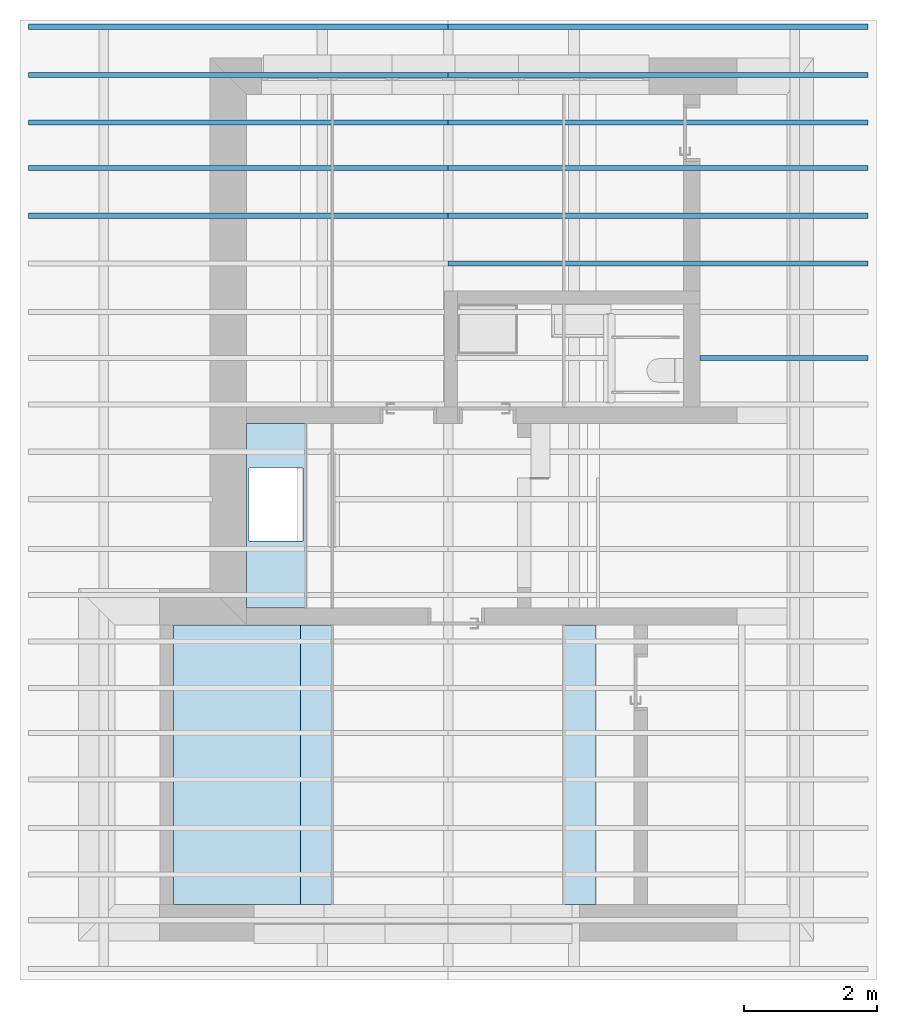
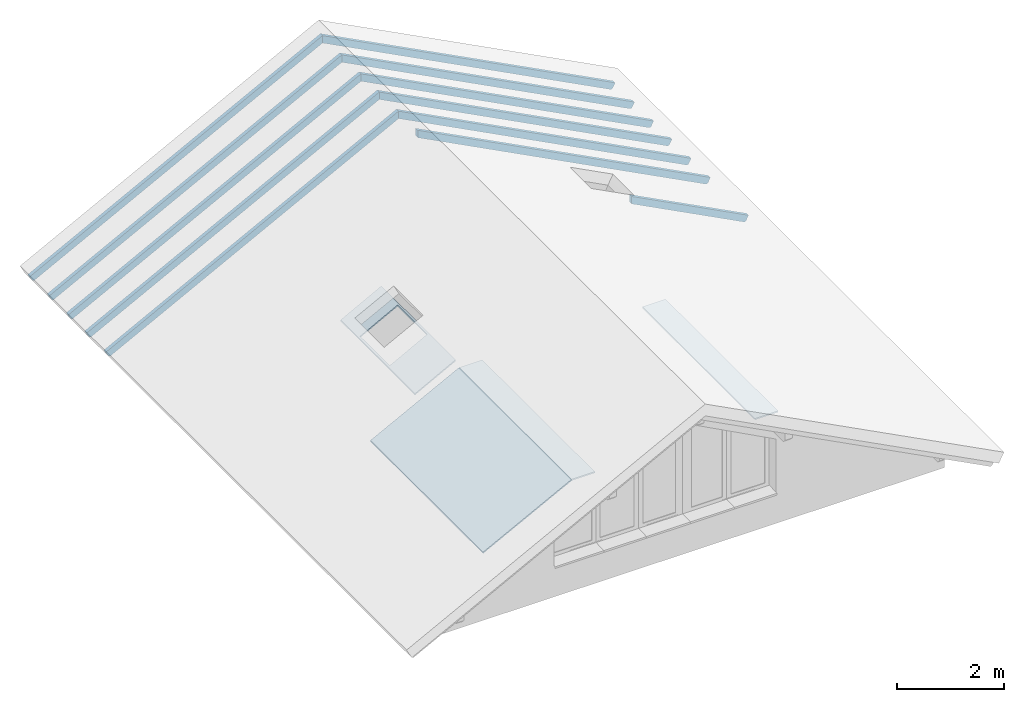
# One storey, part 2 of 18: 12 beams, 4 slabs, 1 opening.
"""IFC2X3 building model written with IfcOpenShell, lengths in metres."""

from ifc_helpers import new_model, entity, si_unit, converted_unit, derived_unit, direction, frame, frame_2d, origin, place, context, subcontext, project, spatial, polyline, rectangle, outline, extrude, clip, halfspace, faceted_brep, material, layer, layer_set, layer_usage, type_object, element, save


model = new_model("IFC2X3")

# Units and contexts
model_context = context("Model", 3, precision=1e-05, world=origin(), true_north=direction((6.123233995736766e-17, 1.0)))
body_context = subcontext(model_context, "Body", "Model", "MODEL_VIEW")
ifc_project = project(units=[si_unit("LENGTHUNIT", "METRE"), si_unit("AREAUNIT", "SQUARE_METRE"), si_unit("VOLUMEUNIT", "CUBIC_METRE"), si_unit("POWERUNIT", "WATT"), derived_unit("USERDEFINED", [(si_unit("MASSUNIT", "GRAM", prefix="KILO"), 1), (si_unit("TIMEUNIT", "SECOND"), -3)]), derived_unit("THERMALRESISTANCEUNIT", [(si_unit("MASSUNIT", "GRAM", prefix="KILO"), -1), (si_unit("TIMEUNIT", "SECOND"), 3), (si_unit("THERMODYNAMICTEMPERATUREUNIT", "KELVIN"), 1)]), derived_unit("USERDEFINED", [(si_unit("MASSUNIT", "GRAM", prefix="KILO"), 1), (si_unit("TIMEUNIT", "SECOND"), -2), (si_unit("THERMODYNAMICTEMPERATUREUNIT", "KELVIN"), -1)]), derived_unit("THERMALTRANSMITTANCEUNIT", [(si_unit("MASSUNIT", "GRAM", prefix="KILO"), 1), (si_unit("TIMEUNIT", "SECOND"), -3), (si_unit("THERMODYNAMICTEMPERATUREUNIT", "KELVIN"), -1)]), converted_unit("PLANEANGLEUNIT", "DEGREE", entity("IfcPlaneAngleMeasure", 0.017453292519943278), si_unit("PLANEANGLEUNIT", "RADIAN"), dimensions=[0, 0, 0, 0, 0, 0, 0]), derived_unit("MOMENTOFINERTIAUNIT", [(si_unit("LENGTHUNIT", "METRE"), 4)])], contexts=[model_context])

# Site, building, storey
site_placement = place(None, origin())
site = spatial("IfcSite", under=ifc_project, at=site_placement, Name="Default", CompositionType="ELEMENT")
building_placement = place(site_placement, origin())
building = spatial("IfcBuilding", under=site, at=building_placement, CompositionType="ELEMENT")
storey_placement = place(building_placement, frame((0.0, 0.0, 5.4)))
storey = spatial("IfcBuildingStorey", under=building, at=storey_placement, Name="1. Obergeschoss", CompositionType="ELEMENT", Elevation=5.4)

# Beams
ifc_material_1 = material(Name="Holz - Astfichte")
beam_type = type_object("IfcBeamType", Name="Skelettbau Holz - Sparren mit Zierkopf:80 x 150", PredefinedType="BEAM")
beam_1_placement = place(storey_placement, frame((26.802577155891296, 26.174470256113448, 0.054540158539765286), z_axis=(-0.4617486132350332, 0.0, 0.887010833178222), x_axis=(0.887010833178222, 0.0, 0.4617486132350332)))
element("IfcBeam", 1, at=beam_1_placement, inside=storey, type_object=beam_type, material=ifc_material_1, Name="Skelettbau Holz - Sparren mit Zierkopf:80 x 150", ObjectType="Skelettbau Holz - Sparren mit Zierkopf:80 x 150", context=body_context, shape_type="Brep", body=[
    faceted_brep([(7.180713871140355, 0.0, 0.10702535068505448), (7.180713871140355, 0.08000000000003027, 0.10702535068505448), (0.055713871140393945, 0.08000000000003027, 0.10702535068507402), (0.05571387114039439, 0.0, 0.10702535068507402), (0.09571387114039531, 0.0, -0.04297464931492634), (0.09571387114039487, 0.08000000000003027, -0.04297464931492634), (0.2057138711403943, 0.08000000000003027, -0.04297464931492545), (7.102628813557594, 0.08000000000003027, -0.04297464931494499), (7.102628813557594, 0.0, -0.04297464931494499), (0.20571387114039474, 0.0, -0.04297464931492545), (0.05571387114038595, 0.08000000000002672, -0.0029746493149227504), (0.08536110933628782, 0.08000000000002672, -0.04161168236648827), (0.07571387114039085, 0.08000000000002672, -0.03761566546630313), (0.06742959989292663, 0.08000000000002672, -0.03125892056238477), (0.06107285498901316, 0.08000000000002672, -0.0229746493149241), (0.05707683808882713, 0.08000000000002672, -0.013327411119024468), (0.0557138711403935, 0.0, -0.002974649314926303), (0.05707683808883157, 0.0, -0.013327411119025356), (0.0610728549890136, 0.0, -0.0229746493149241), (0.06742959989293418, 0.0, -0.031258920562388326), (0.07571387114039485, 0.0, -0.037615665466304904), (0.08536110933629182, 0.0, -0.041611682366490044)], [[[0, 1, 2, 3]], [[4, 5, 6, 7, 8, 9]], [[10, 2, 1, 7, 6, 5, 11, 12, 13, 14, 15]], [[4, 9, 8, 0, 3, 16, 17, 18, 19, 20, 21]], [[16, 10, 15, 17]], [[17, 15, 14, 18]], [[18, 14, 13, 19]], [[20, 12, 11, 21]], [[21, 11, 5, 4]], [[20, 19, 13, 12]], [[3, 2, 10, 16]], [[0, 8, 7, 1]]]),
])
beam_2_placement = place(storey_placement, frame((26.80257715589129, 26.89447025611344, 0.0545401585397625), z_axis=(-0.4617486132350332, 0.0, 0.887010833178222), x_axis=(0.887010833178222, 0.0, 0.4617486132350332)))
element("IfcBeam", 2, at=beam_2_placement, inside=storey, type_object=beam_type, material=ifc_material_1, Name="Skelettbau Holz - Sparren mit Zierkopf:80 x 150", ObjectType="Skelettbau Holz - Sparren mit Zierkopf:80 x 150", context=body_context, shape_type="Brep", body=[
    faceted_brep([(7.180713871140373, 0.0, 0.10702535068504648), (7.180713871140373, 0.08000000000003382, 0.10702535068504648), (0.05571387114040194, 0.08000000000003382, 0.10702535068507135), (0.05571387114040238, 0.0, 0.10702535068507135), (0.0957138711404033, 0.0, -0.042974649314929), (0.09571387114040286, 0.08000000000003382, -0.042974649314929), (0.2057138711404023, 0.08000000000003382, -0.042974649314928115), (7.102628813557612, 0.08000000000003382, -0.04297464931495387), (7.102628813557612, 0.0, -0.04297464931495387), (0.20571387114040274, 0.0, -0.042974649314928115), (0.0557138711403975, 0.08000000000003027, -0.0029746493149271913), (0.08536110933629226, 0.08000000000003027, -0.04161168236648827), (0.07571387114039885, 0.08000000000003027, -0.03761566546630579), (0.06742959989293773, 0.08000000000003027, -0.031258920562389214), (0.06107285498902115, 0.08000000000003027, -0.022974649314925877), (0.05707683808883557, 0.08000000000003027, -0.013327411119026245), (0.055713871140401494, 0.0, -0.0029746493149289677), (0.05707683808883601, 0.0, -0.013327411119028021), (0.0610728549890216, 0.0, -0.022974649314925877), (0.06742959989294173, 0.0, -0.03125892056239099), (0.07571387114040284, 0.0, -0.03761566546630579), (0.08536110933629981, 0.0, -0.04161168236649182)], [[[0, 1, 2, 3]], [[4, 5, 6, 7, 8, 9]], [[10, 2, 1, 7, 6, 5, 11, 12, 13, 14, 15]], [[4, 9, 8, 0, 3, 16, 17, 18, 19, 20, 21]], [[16, 10, 15, 17]], [[17, 15, 14, 18]], [[18, 14, 13, 19]], [[20, 12, 11, 21]], [[21, 11, 5, 4]], [[20, 19, 13, 12]], [[3, 2, 10, 16]], [[0, 8, 7, 1]]]),
])
beam_3_placement = place(storey_placement, frame((26.80257715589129, 27.57947025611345, 0.054540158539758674), z_axis=(-0.4617486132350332, 0.0, 0.887010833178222), x_axis=(0.887010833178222, 0.0, 0.4617486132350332)))
element("IfcBeam", 3, at=beam_3_placement, inside=storey, type_object=beam_type, material=ifc_material_1, Name="Skelettbau Holz - Sparren mit Zierkopf:80 x 150", ObjectType="Skelettbau Holz - Sparren mit Zierkopf:80 x 150", context=body_context, shape_type="Brep", body=[
    faceted_brep([(7.180713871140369, 0.0, 0.10702535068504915), (7.180713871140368, 0.08000000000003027, 0.10702535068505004), (0.05571387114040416, 0.08000000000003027, 0.10702535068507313), (0.0557138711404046, 0.0, 0.10702535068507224), (0.09571387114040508, 0.0, -0.042974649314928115), (0.09571387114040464, 0.08000000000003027, -0.04297464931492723), (0.20571387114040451, 0.08000000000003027, -0.04297464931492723), (7.102628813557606, 0.08000000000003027, -0.04297464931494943), (7.102628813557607, 0.0, -0.04297464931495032), (0.20571387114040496, 0.0, -0.042974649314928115), (0.055713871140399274, 0.08000000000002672, -0.0029746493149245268), (0.08536110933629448, 0.08000000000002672, -0.0416116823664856), (0.07571387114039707, 0.08000000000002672, -0.03761566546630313), (0.0674295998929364, 0.08000000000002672, -0.031258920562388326), (0.061072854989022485, 0.08000000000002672, -0.02297464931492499), (0.0570768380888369, 0.08000000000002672, -0.013327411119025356), (0.05571387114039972, 0.0, -0.0029746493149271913), (0.0570768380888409, 0.0, -0.013327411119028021), (0.06107285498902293, 0.0, -0.022974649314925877), (0.0674295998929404, 0.0, -0.031258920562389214), (0.07571387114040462, 0.0, -0.03761566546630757), (0.08536110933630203, 0.0, -0.04161168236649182)], [[[0, 1, 2, 3]], [[4, 5, 6, 7, 8, 9]], [[10, 2, 1, 7, 6, 5, 11, 12, 13, 14, 15]], [[4, 9, 8, 0, 3, 16, 17, 18, 19, 20, 21]], [[16, 10, 15, 17]], [[17, 15, 14, 18]], [[18, 14, 13, 19]], [[20, 12, 11, 21]], [[21, 11, 5, 4]], [[20, 19, 13, 12]], [[3, 2, 10, 16]], [[0, 8, 7, 1]]]),
])
beam_4_placement = place(storey_placement, frame((26.80257715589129, 28.294470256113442, 0.05454015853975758), z_axis=(-0.4617486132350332, 0.0, 0.887010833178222), x_axis=(0.887010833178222, 0.0, 0.4617486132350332)))
element("IfcBeam", 4, at=beam_4_placement, inside=storey, type_object=beam_type, material=ifc_material_1, Name="Skelettbau Holz - Sparren mit Zierkopf:80 x 150", ObjectType="Skelettbau Holz - Sparren mit Zierkopf:80 x 150", context=body_context, shape_type="Brep", body=[
    faceted_brep([(7.1807138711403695, 0.0, 0.10702535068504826), (7.1807138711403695, 0.08000000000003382, 0.10702535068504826), (0.05571387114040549, 0.08000000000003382, 0.10702535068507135), (0.055713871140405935, 0.0, 0.10702535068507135), (0.09571387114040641, 0.0, -0.042974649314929), (0.09571387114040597, 0.08000000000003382, -0.042974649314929), (0.20571387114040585, 0.08000000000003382, -0.042974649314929), (7.102628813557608, 0.08000000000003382, -0.04297464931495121), (7.102628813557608, 0.0, -0.04297464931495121), (0.2057138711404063, 0.0, -0.042974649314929), (0.055713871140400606, 0.08000000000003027, -0.002974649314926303), (0.08536110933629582, 0.08000000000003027, -0.04161168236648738), (0.0757138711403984, 0.08000000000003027, -0.037615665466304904), (0.06742959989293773, 0.08000000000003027, -0.0312589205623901), (0.06107285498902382, 0.08000000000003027, -0.022974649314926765), (0.05707683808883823, 0.08000000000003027, -0.013327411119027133), (0.05571387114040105, 0.0, -0.0029746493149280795), (0.05707683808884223, 0.0, -0.013327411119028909), (0.06107285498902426, 0.0, -0.022974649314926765), (0.06742959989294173, 0.0, -0.0312589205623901), (0.07571387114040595, 0.0, -0.03761566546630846), (0.08536110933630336, 0.0, -0.04161168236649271)], [[[0, 1, 2, 3]], [[4, 5, 6, 7, 8, 9]], [[10, 2, 1, 7, 6, 5, 11, 12, 13, 14, 15]], [[4, 9, 8, 0, 3, 16, 17, 18, 19, 20, 21]], [[16, 10, 15, 17]], [[17, 15, 14, 18]], [[18, 14, 13, 19]], [[20, 12, 11, 21]], [[21, 11, 5, 4]], [[20, 19, 13, 12]], [[3, 2, 10, 16]], [[0, 8, 7, 1]]]),
])
beam_5_placement = place(storey_placement, frame((26.80257715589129, 29.01947025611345, 0.05454015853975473), z_axis=(-0.4617486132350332, 0.0, 0.887010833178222), x_axis=(0.887010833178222, 0.0, 0.4617486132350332)))
element("IfcBeam", 5, at=beam_5_placement, inside=storey, type_object=beam_type, material=ifc_material_1, Name="Skelettbau Holz - Sparren mit Zierkopf:80 x 150", ObjectType="Skelettbau Holz - Sparren mit Zierkopf:80 x 150", context=body_context, shape_type="Brep", body=[
    faceted_brep([(7.180713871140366, 0.0, 0.10702535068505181), (7.180713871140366, 0.08000000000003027, 0.10702535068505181), (0.05571387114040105, 0.08000000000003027, 0.10702535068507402), (0.055713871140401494, 0.0, 0.10702535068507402), (0.09571387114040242, 0.0, -0.04297464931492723), (0.09571387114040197, 0.08000000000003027, -0.04297464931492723), (0.2057138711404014, 0.08000000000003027, -0.04297464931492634), (7.102628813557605, 0.08000000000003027, -0.042974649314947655), (7.102628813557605, 0.0, -0.042974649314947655), (0.20571387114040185, 0.0, -0.04297464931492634), (0.055713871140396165, 0.08000000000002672, -0.0029746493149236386), (0.08536110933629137, 0.08000000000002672, -0.041611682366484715), (0.0757138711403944, 0.08000000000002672, -0.03761566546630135), (0.06742959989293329, 0.08000000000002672, -0.03125892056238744), (0.06107285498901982, 0.08000000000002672, -0.02297464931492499), (0.05707683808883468, 0.08000000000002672, -0.01332741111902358), (0.05571387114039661, 0.0, -0.002974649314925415), (0.05707683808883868, 0.0, -0.013327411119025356), (0.061072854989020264, 0.0, -0.02297464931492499), (0.06742959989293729, 0.0, -0.03125892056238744), (0.07571387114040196, 0.0, -0.037615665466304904), (0.08536110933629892, 0.0, -0.041611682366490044)], [[[0, 1, 2, 3]], [[4, 5, 6, 7, 8, 9]], [[10, 2, 1, 7, 6, 5, 11, 12, 13, 14, 15]], [[4, 9, 8, 0, 3, 16, 17, 18, 19, 20, 21]], [[16, 10, 15, 17]], [[17, 15, 14, 18]], [[18, 14, 13, 19]], [[20, 12, 11, 21]], [[21, 11, 5, 4]], [[20, 19, 13, 12]], [[3, 2, 10, 16]], [[0, 8, 7, 1]]]),
])
beam_6_placement = place(storey_placement, frame((33.1225293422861, 29.019470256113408, 3.465157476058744), z_axis=(0.46174861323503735, 0.0, 0.8870108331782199), x_axis=(-0.8870108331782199, 0.0, 0.46174861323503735)))
element("IfcBeam", 6, at=beam_6_placement, inside=storey, type_object=beam_type, material=ifc_material_1, Name="Skelettbau Holz - Sparren mit Zierkopf:80 x 150", ObjectType="Skelettbau Holz - Sparren mit Zierkopf:80 x 150", context=body_context, shape_type="Brep", body=[
    faceted_brep([(0.0, -0.08000000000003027, 0.0), (0.0, 0.0, 0.0), (-7.124999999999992, 0.0, 0.0), (-7.124999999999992, -0.08000000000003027, 0.0), (-7.084999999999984, -0.08000000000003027, -0.14999999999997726), (-7.084999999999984, 0.0, -0.14999999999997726), (-6.97499999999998, 0.0, -0.14999999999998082), (-0.07808505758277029, 0.0, -0.14999999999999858), (-0.0780850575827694, -0.08000000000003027, -0.14999999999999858), (-6.97499999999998, -0.08000000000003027, -0.14999999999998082), (-7.124999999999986, 0.0, -0.10999999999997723), (-7.095352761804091, 0.0, -0.1486370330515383), (-7.1049999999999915, 0.0, -0.14464101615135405), (-7.113284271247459, 0.0, -0.13828427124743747), (-7.11964101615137, 0.0, -0.1299999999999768), (-7.123637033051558, 0.0, -0.12035276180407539), (-7.124999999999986, -0.08000000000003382, -0.10999999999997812), (-7.123637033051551, -0.08000000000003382, -0.12035276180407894), (-7.11964101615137, -0.08000000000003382, -0.1299999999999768), (-7.113284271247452, -0.08000000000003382, -0.13828427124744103), (-7.1049999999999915, -0.08000000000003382, -0.14464101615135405), (-7.095352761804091, -0.08000000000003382, -0.1486370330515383)], [[[0, 1, 2, 3]], [[4, 5, 6, 7, 8, 9]], [[10, 2, 1, 7, 6, 5, 11, 12, 13, 14, 15]], [[4, 9, 8, 0, 3, 16, 17, 18, 19, 20, 21]], [[16, 10, 15, 17]], [[17, 15, 14, 18]], [[18, 14, 13, 19]], [[20, 12, 11, 21]], [[21, 11, 5, 4]], [[20, 19, 13, 12]], [[3, 2, 10, 16]], [[0, 8, 7, 1]]]),
])
beam_7_placement = place(storey_placement, frame((33.1225293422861, 28.294470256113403, 3.4651574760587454), z_axis=(0.46174861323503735, 0.0, 0.8870108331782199), x_axis=(-0.8870108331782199, 0.0, 0.46174861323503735)))
element("IfcBeam", 7, at=beam_7_placement, inside=storey, type_object=beam_type, material=ifc_material_1, Name="Skelettbau Holz - Sparren mit Zierkopf:80 x 150", ObjectType="Skelettbau Holz - Sparren mit Zierkopf:80 x 150", context=body_context, shape_type="Brep", body=[
    faceted_brep([(0.0, -0.08000000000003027, 0.0), (0.0, 0.0, 0.0), (-7.124999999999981, 0.0, 0.0), (-7.12499999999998, -0.08000000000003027, 0.0), (-7.0849999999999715, -0.08000000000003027, -0.14999999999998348), (-7.084999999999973, 0.0, -0.1499999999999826), (-6.9749999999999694, 0.0, -0.14999999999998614), (-0.07808505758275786, 0.0, -0.1500000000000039), (-0.07808505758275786, -0.08000000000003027, -0.1500000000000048), (-6.974999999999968, -0.08000000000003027, -0.14999999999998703), (-7.124999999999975, 0.0, -0.10999999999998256), (-7.09535276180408, 0.0, -0.14863703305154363), (-7.104999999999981, 0.0, -0.14464101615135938), (-7.113284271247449, 0.0, -0.1382842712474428), (-7.119641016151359, 0.0, -0.12999999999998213), (-7.123637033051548, 0.0, -0.12035276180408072), (-7.124999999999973, -0.08000000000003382, -0.10999999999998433), (-7.123637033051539, -0.08000000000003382, -0.12035276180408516), (-7.119641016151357, -0.08000000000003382, -0.12999999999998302), (-7.11328427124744, -0.08000000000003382, -0.13828427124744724), (-7.104999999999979, -0.08000000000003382, -0.14464101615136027), (-7.095352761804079, -0.08000000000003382, -0.14863703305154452)], [[[0, 1, 2, 3]], [[4, 5, 6, 7, 8, 9]], [[10, 2, 1, 7, 6, 5, 11, 12, 13, 14, 15]], [[4, 9, 8, 0, 3, 16, 17, 18, 19, 20, 21]], [[16, 10, 15, 17]], [[17, 15, 14, 18]], [[18, 14, 13, 19]], [[20, 12, 11, 21]], [[21, 11, 5, 4]], [[20, 19, 13, 12]], [[3, 2, 10, 16]], [[0, 8, 7, 1]]]),
])
beam_8_placement = place(storey_placement, frame((33.1225293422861, 27.579470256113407, 3.4651574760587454), z_axis=(0.46174861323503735, 0.0, 0.8870108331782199), x_axis=(-0.8870108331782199, 0.0, 0.46174861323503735)))
element("IfcBeam", 8, at=beam_8_placement, inside=storey, type_object=beam_type, material=ifc_material_1, Name="Skelettbau Holz - Sparren mit Zierkopf:80 x 150", ObjectType="Skelettbau Holz - Sparren mit Zierkopf:80 x 150", context=body_context, shape_type="Brep", body=[
    faceted_brep([(0.0, -0.08000000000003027, 0.0), (0.0, 0.0, 0.0), (-7.124999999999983, 0.0, 0.0), (-7.124999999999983, -0.08000000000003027, 0.0), (-7.084999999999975, -0.08000000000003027, -0.1499999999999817), (-7.084999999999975, 0.0, -0.1499999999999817), (-6.974999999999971, 0.0, -0.14999999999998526), (-0.07808505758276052, 0.0, -0.15000000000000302), (-0.07808505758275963, -0.08000000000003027, -0.15000000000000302), (-6.974999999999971, -0.08000000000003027, -0.14999999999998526), (-7.124999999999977, 0.0, -0.10999999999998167), (-7.095352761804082, 0.0, -0.14863703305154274), (-7.104999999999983, 0.0, -0.1446410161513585), (-7.11328427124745, 0.0, -0.13828427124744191), (-7.119641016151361, 0.0, -0.12999999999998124), (-7.1236370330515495, 0.0, -0.12035276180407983), (-7.124999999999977, -0.08000000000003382, -0.10999999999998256), (-7.123637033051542, -0.08000000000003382, -0.12035276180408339), (-7.119641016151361, -0.08000000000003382, -0.12999999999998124), (-7.113284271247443, -0.08000000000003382, -0.13828427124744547), (-7.104999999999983, -0.08000000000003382, -0.1446410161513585), (-7.095352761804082, -0.08000000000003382, -0.14863703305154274)], [[[0, 1, 2, 3]], [[4, 5, 6, 7, 8, 9]], [[10, 2, 1, 7, 6, 5, 11, 12, 13, 14, 15]], [[4, 9, 8, 0, 3, 16, 17, 18, 19, 20, 21]], [[16, 10, 15, 17]], [[17, 15, 14, 18]], [[18, 14, 13, 19]], [[20, 12, 11, 21]], [[21, 11, 5, 4]], [[20, 19, 13, 12]], [[3, 2, 10, 16]], [[0, 8, 7, 1]]]),
])
beam_9_placement = place(storey_placement, frame((33.1225293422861, 26.8944702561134, 3.4651574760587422), z_axis=(0.46174861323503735, 0.0, 0.8870108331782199), x_axis=(-0.8870108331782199, 0.0, 0.46174861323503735)))
element("IfcBeam", 9, at=beam_9_placement, inside=storey, type_object=beam_type, material=ifc_material_1, Name="Skelettbau Holz - Sparren mit Zierkopf:80 x 150", ObjectType="Skelettbau Holz - Sparren mit Zierkopf:80 x 150", context=body_context, shape_type="Brep", body=[
    faceted_brep([(0.0, -0.08000000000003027, 0.0), (0.0, 0.0, 0.0), (-7.1249999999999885, 0.0, 0.0), (-7.1249999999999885, -0.08000000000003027, 0.0), (-7.08499999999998, -0.08000000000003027, -0.14999999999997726), (-7.08499999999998, 0.0, -0.14999999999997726), (-6.9749999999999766, 0.0, -0.14999999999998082), (-0.07808505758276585, 0.0, -0.14999999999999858), (-0.07808505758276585, -0.08000000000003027, -0.14999999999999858), (-6.9749999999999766, -0.08000000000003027, -0.14999999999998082), (-7.124999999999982, 0.0, -0.10999999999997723), (-7.0953527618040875, 0.0, -0.1486370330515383), (-7.104999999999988, 0.0, -0.14464101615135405), (-7.113284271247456, 0.0, -0.13828427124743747), (-7.119641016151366, 0.0, -0.1299999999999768), (-7.123637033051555, 0.0, -0.12035276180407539), (-7.124999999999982, -0.08000000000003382, -0.10999999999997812), (-7.123637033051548, -0.08000000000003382, -0.12035276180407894), (-7.119641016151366, -0.08000000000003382, -0.1299999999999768), (-7.113284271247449, -0.08000000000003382, -0.13828427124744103), (-7.104999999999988, -0.08000000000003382, -0.14464101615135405), (-7.0953527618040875, -0.08000000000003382, -0.1486370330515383)], [[[0, 1, 2, 3]], [[4, 5, 6, 7, 8, 9]], [[10, 2, 1, 7, 6, 5, 11, 12, 13, 14, 15]], [[4, 9, 8, 0, 3, 16, 17, 18, 19, 20, 21]], [[16, 10, 15, 17]], [[17, 15, 14, 18]], [[18, 14, 13, 19]], [[20, 12, 11, 21]], [[21, 11, 5, 4]], [[20, 19, 13, 12]], [[3, 2, 10, 16]], [[0, 8, 7, 1]]]),
])
beam_10_placement = place(storey_placement, frame((33.1225293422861, 26.174470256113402, 3.4651574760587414), z_axis=(0.46174861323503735, 0.0, 0.8870108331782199), x_axis=(-0.8870108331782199, 0.0, 0.46174861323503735)))
element("IfcBeam", 10, at=beam_10_placement, inside=storey, type_object=beam_type, material=ifc_material_1, Name="Skelettbau Holz - Sparren mit Zierkopf:80 x 150", ObjectType="Skelettbau Holz - Sparren mit Zierkopf:80 x 150", context=body_context, shape_type="Brep", body=[
    faceted_brep([(0.0, -0.08000000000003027, 0.0), (0.0, 0.0, 0.0), (-7.12499999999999, 0.0, 0.0), (-7.12499999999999, -0.08000000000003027, 0.0), (-7.084999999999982, -0.08000000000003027, -0.14999999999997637), (-7.084999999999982, 0.0, -0.14999999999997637), (-6.974999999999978, 0.0, -0.14999999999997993), (-0.07808505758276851, 0.0, -0.1499999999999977), (-0.07808505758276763, -0.08000000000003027, -0.1499999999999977), (-6.974999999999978, -0.08000000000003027, -0.14999999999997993), (-7.124999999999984, 0.0, -0.10999999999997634), (-7.095352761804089, 0.0, -0.14863703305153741), (-7.10499999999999, 0.0, -0.14464101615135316), (-7.1132842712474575, 0.0, -0.13828427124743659), (-7.119641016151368, 0.0, -0.1299999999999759), (-7.123637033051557, 0.0, -0.1203527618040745), (-7.124999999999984, -0.08000000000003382, -0.10999999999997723), (-7.1236370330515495, -0.08000000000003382, -0.12035276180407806), (-7.119641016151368, -0.08000000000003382, -0.1299999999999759), (-7.11328427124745, -0.08000000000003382, -0.13828427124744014), (-7.10499999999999, -0.08000000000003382, -0.14464101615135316), (-7.095352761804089, -0.08000000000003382, -0.14863703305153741)], [[[0, 1, 2, 3]], [[4, 5, 6, 7, 8, 9]], [[10, 2, 1, 7, 6, 5, 11, 12, 13, 14, 15]], [[4, 9, 8, 0, 3, 16, 17, 18, 19, 20, 21]], [[16, 10, 15, 17]], [[17, 15, 14, 18]], [[18, 14, 13, 19]], [[20, 12, 11, 21]], [[21, 11, 5, 4]], [[20, 19, 13, 12]], [[3, 2, 10, 16]], [[0, 8, 7, 1]]]),
])
beam_11_placement = place(storey_placement, frame((33.1225293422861, 25.454921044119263, 3.4651574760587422), z_axis=(0.46174861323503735, 0.0, 0.8870108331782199), x_axis=(-0.8870108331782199, 0.0, 0.46174861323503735)))
element("IfcBeam", 11, at=beam_11_placement, inside=storey, type_object=beam_type, material=ifc_material_1, Name="Skelettbau Holz - Sparren mit Zierkopf:80 x 150", ObjectType="Skelettbau Holz - Sparren mit Zierkopf:80 x 150", context=body_context, shape_type="Brep", body=[
    faceted_brep([(0.0, -0.08000000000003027, 0.0), (0.0, 0.0, 0.0), (-7.124999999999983, 0.0, 0.0), (-7.124999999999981, -0.08000000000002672, 0.0), (-7.084999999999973, -0.08000000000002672, -0.1499999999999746), (-7.084999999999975, 0.0, -0.1499999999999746), (-6.974999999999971, 0.0, -0.14999999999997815), (-0.07808505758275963, 0.0, -0.14999999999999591), (-0.07808505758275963, -0.08000000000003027, -0.14999999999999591), (-6.9749999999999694, -0.08000000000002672, -0.14999999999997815), (-7.124999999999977, 0.0, -0.10999999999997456), (-7.095352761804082, 0.0, -0.14863703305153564), (-7.104999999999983, 0.0, -0.1446410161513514), (-7.11328427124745, 0.0, -0.1382842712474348), (-7.119641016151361, 0.0, -0.12999999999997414), (-7.1236370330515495, 0.0, -0.12035276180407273), (-7.124999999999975, -0.08000000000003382, -0.10999999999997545), (-7.123637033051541, -0.08000000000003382, -0.12035276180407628), (-7.119641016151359, -0.08000000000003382, -0.12999999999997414), (-7.113284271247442, -0.08000000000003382, -0.13828427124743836), (-7.104999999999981, -0.08000000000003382, -0.1446410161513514), (-7.09535276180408, -0.08000000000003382, -0.14863703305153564)], [[[0, 1, 2, 3]], [[4, 5, 6, 7, 8, 9]], [[10, 2, 1, 7, 6, 5, 11, 12, 13, 14, 15]], [[4, 9, 8, 0, 3, 16, 17, 18, 19, 20, 21]], [[16, 10, 15, 17]], [[17, 15, 14, 18]], [[18, 14, 13, 19]], [[20, 12, 11, 21]], [[21, 11, 5, 4]], [[20, 19, 13, 12]], [[3, 2, 10, 16]], [[0, 8, 7, 1]]]),
])
beam_12_placement = place(storey_placement, frame((36.915016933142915, 24.03034746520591, 1.4909133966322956), z_axis=(0.46174861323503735, 0.0, 0.8870108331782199), x_axis=(-0.8870108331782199, 0.0, 0.46174861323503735)))
element("IfcBeam", 12, at=beam_12_placement, inside=storey, type_object=beam_type, material=ifc_material_1, Name="Skelettbau Holz - Sparren mit Zierkopf:80 x 150", ObjectType="Skelettbau Holz - Sparren mit Zierkopf:80 x 150", context=body_context, shape_type="Brep", body=[
    faceted_brep([(0.0, -0.08000000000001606, 0.0), (0.0, 0.0, 0.0), (-2.849417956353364, 0.0, 0.0), (-2.849417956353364, -0.08000000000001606, 0.0), (-2.8094179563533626, -0.08000000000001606, -0.1499999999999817), (-2.8094179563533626, 0.0, -0.1499999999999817), (-2.6994179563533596, 0.0, -0.14999999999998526), (-0.07808505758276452, 0.0, -0.1499999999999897), (-0.07808505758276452, -0.08000000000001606, -0.1499999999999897), (-2.6994179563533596, -0.08000000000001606, -0.14999999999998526), (-2.8494179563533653, 0.0, -0.10999999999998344), (-2.8197707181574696, 0.0, -0.14863703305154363), (-2.8294179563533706, 0.0, -0.14464101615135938), (-2.8377022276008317, 0.0, -0.13828427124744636), (-2.8440589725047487, 0.0, -0.12999999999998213), (-2.8480549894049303, 0.0, -0.12035276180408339), (-2.849417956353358, -0.08000000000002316, -0.109999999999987), (-2.848054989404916, -0.08000000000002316, -0.12035276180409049), (-2.8440589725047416, -0.08000000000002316, -0.12999999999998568), (-2.8377022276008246, -0.08000000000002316, -0.13828427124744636), (-2.8294179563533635, -0.08000000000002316, -0.14464101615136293), (-2.8197707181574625, -0.08000000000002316, -0.14863703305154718)], [[[0, 1, 2, 3]], [[4, 5, 6, 7, 8, 9]], [[10, 2, 1, 7, 6, 5, 11, 12, 13, 14, 15]], [[4, 9, 8, 0, 3, 16, 17, 18, 19, 20, 21]], [[16, 10, 15, 17]], [[17, 15, 14, 18]], [[18, 14, 13, 19]], [[20, 12, 11, 21]], [[21, 11, 5, 4]], [[20, 19, 13, 12]], [[3, 2, 10, 16]], [[1, 0, 8, 7]]]),
])

# Slabs
ifc_material_2 = material(Name="Trockenbau - Gipsplatte")
ifc_layer_1 = layer(ifc_material_2, 0.03)
ifc_layer_set_1 = layer_set([ifc_layer_1], Name="Geschossdecke:Decke 1OG 30")
ifc_layer_usage_1 = layer_usage(ifc_layer_set_1, "AXIS3", "POSITIVE", 0.0)
slab_type_1 = type_object("IfcSlabType", Name="Geschossdecke:Decke 1OG 30", PredefinedType="FLOOR", material=ifc_layer_set_1)
slab_1_placement = place(storey_placement, origin())
element("IfcSlab", 13, at=slab_1_placement, inside=storey, type_object=slab_type_1, material=ifc_layer_usage_1, Name="Geschossdecke:Decke 1OG 30", ObjectType="Geschossdecke:Decke 1OG 30", PredefinedType="FLOOR", context=body_context, shape_type="SweptSolid", body=[
    extrude(rectangle(XDim=4.210000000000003, YDim=0.4999999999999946, at=frame_2d((1.1102230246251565e-15, -2.1649348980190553e-15), x_axis=(1.0, 0.0))), frame((31.144014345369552, 17.947272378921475, 2.106853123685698), z_axis=(0.0, 0.0, -1.0), x_axis=(0.0, 1.0, 0.0)), (0.0, 0.0, 1.0), 0.029999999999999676),
])
ifc_layer_usage_2 = layer_usage(ifc_layer_set_1, "AXIS3", "POSITIVE", 0.0)
slab_2_placement = place(storey_placement, origin())
element("IfcSlab", 14, at=slab_2_placement, inside=storey, type_object=slab_type_1, material=ifc_layer_usage_2, Name="Geschossdecke:Decke 1OG 30", ObjectType="Geschossdecke:Decke 1OG 30", PredefinedType="FLOOR", context=body_context, shape_type="SweptSolid", body=[
    extrude(rectangle(XDim=4.210000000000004, YDim=0.4999999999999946, at=frame_2d((0.0, -2.1649348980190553e-15), x_axis=(1.0, 0.0))), frame((35.101066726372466, 17.947272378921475, 2.1089604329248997), z_axis=(0.0, 0.0, -1.0), x_axis=(0.0, 1.0, 0.0)), (0.0, 0.0, 1.0), 0.029999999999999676),
])
ifc_layer_2 = layer(ifc_material_2, 0.03)
ifc_layer_set_2 = layer_set([ifc_layer_2], Name="Geschossdecke:1OG Decke 30")
ifc_layer_usage_3 = layer_usage(ifc_layer_set_2, "AXIS3", "POSITIVE", 0.0)
slab_type_2 = type_object("IfcSlabType", Name="Geschossdecke:1OG Decke 30", PredefinedType="FLOOR", material=ifc_layer_set_2)
slab_3_placement = place(storey_placement, origin())
element("IfcSlab", 15, at=slab_3_placement, inside=storey, type_object=slab_type_2, material=ifc_layer_usage_3, Name="Geschossdecke:1OG Decke 30", ObjectType="Geschossdecke:1OG Decke 30", PredefinedType="FLOOR", context=body_context, shape_type="Clipping", body=[
    clip(clip(extrude(outline(polyline([(-2.1050043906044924, -1.0775267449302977), (2.1049956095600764, -1.0775267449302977), (2.1050043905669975, 1.0775095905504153), (-2.1049956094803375, 1.077522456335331), (-2.1050043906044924, -1.0775267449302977)])), frame((29.937732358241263, 17.94727237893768, 1.6103042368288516), z_axis=(0.4608420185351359, 7.846943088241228e-06, -0.8874821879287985), x_axis=(0.0, 1.0, 8.841803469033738e-06)), (-8.841803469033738e-06, -0.46084201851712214, 0.8874821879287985), 0.03381240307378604), halfspace(frame((29.937730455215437, 17.947272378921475, 1.5803012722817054), z_axis=(0.460842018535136, 7.846943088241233e-06, -0.8874821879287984), x_axis=(0.0, -1.0, -8.841803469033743e-06)), False)), halfspace(frame((29.937730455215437, 17.947272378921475, 1.610301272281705), z_axis=(-0.460842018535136, -7.846943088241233e-06, 0.8874821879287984), x_axis=(0.0, -1.0, -8.841803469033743e-06)), False)),
])

# Slab, opening
ifc_layer_usage_4 = layer_usage(ifc_layer_set_2, "AXIS3", "POSITIVE", 0.0)
slab_4_placement = place(storey_placement, frame((30.08672000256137, 20.30227237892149, 1.608716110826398)))
slab_4 = element("IfcSlab", 16, at=slab_4_placement, inside=storey, type_object=slab_type_2, material=ifc_layer_usage_4, Name="Geschossdecke:1OG Decke 30", ObjectType="Geschossdecke:1OG Decke 30", PredefinedType="FLOOR", context=body_context, shape_type="SweptSolid", body=[
    extrude(rectangle(XDim=2.780000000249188, YDim=0.9943831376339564, at=frame_2d((-4.381092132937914e-06, 0.0), x_axis=(0.0, -1.0))), frame((0.4386510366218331, 1.3899999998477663, 0.26408722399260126), z_axis=(-0.47078153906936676, -1.1813259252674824e-05, 0.8822498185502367), x_axis=(0.8822498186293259, -6.3037296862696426e-06, 0.47078153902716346)), (-0.47078153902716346, -1.3389925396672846e-05, -0.8822498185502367), 0.029999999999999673),
])
opening_placement = place(slab_4_placement, origin())
element("IfcOpeningElement", 17, at=opening_placement, cuts=slab_4, Name="Geschossdecke:1OG Decke 30", ObjectType="Opening", context=body_context, shape_type="SweptSolid", body=[
    extrude(rectangle(XDim=1.1040045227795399, YDim=0.9161337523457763, at=frame_2d((0.0022481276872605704, 0.1702812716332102), x_axis=(-1.6124158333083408e-08, -1.0))), frame((0.4386510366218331, 1.3899999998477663, 0.498166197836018), z_axis=(-0.47078153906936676, -1.1813259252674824e-05, 0.8822498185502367), x_axis=(0.8822498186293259, -6.3037296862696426e-06, 0.47078153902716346)), (-0.47078153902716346, -1.3389925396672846e-05, -0.8822498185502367), 0.5646543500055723),
])

save(model, "model.ifc")
